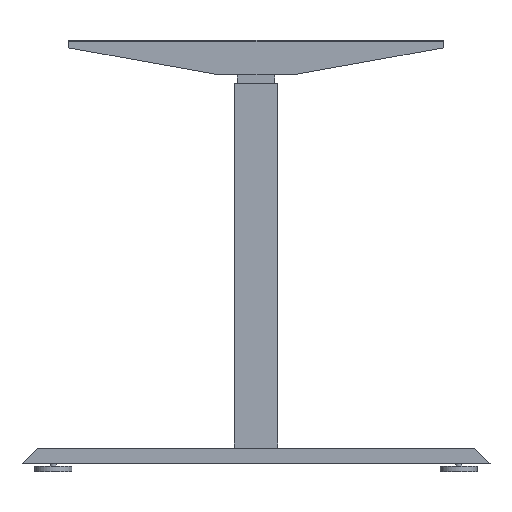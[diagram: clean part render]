
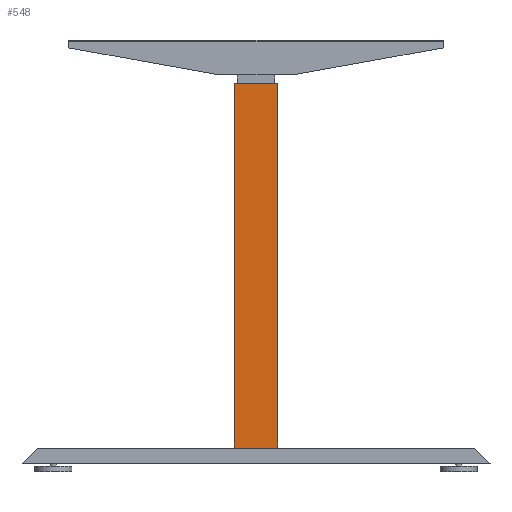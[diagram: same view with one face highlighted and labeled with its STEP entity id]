
A CAD part, left-side view. The second image highlights one B-rep face of the part: STEP entity #548.
In plain terms, the highlighted planar face has unit normal (-1, 0, 0).
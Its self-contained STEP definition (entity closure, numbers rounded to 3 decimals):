
#548 = ADVANCED_FACE( '', ( #1144 ), #1145, .F. );
#1144 = FACE_OUTER_BOUND( '', #1758, .T. );
#1145 = PLANE( '', #1759 );
#1758 = EDGE_LOOP( '', ( #2843, #2844, #2845, #2846 ) );
#1759 = AXIS2_PLACEMENT_3D( '', #2847, #2848, #2849 );
#2843 = ORIENTED_EDGE( '', *, *, #3547, .F. );
#2844 = ORIENTED_EDGE( '', *, *, #3523, .F. );
#2845 = ORIENTED_EDGE( '', *, *, #3237, .F. );
#2846 = ORIENTED_EDGE( '', *, *, #3462, .F. );
#2847 = CARTESIAN_POINT( '', ( -35., 0., 0. ) );
#2848 = DIRECTION( '', ( 1., 0., 0. ) );
#2849 = DIRECTION( '', ( 0., 0., -1. ) );
#3237 = EDGE_CURVE( '', #3770, #3771, #3772, .T. );
#3462 = EDGE_CURVE( '', #4125, #3770, #4126, .T. );
#3523 = EDGE_CURVE( '', #3771, #4208, #4209, .T. );
#3547 = EDGE_CURVE( '', #4208, #4125, #4239, .T. );
#3770 = VERTEX_POINT( '', #4522 );
#3771 = VERTEX_POINT( '', #4523 );
#3772 = LINE( '', #4524, #4525 );
#4125 = VERTEX_POINT( '', #4983 );
#4126 = LINE( '', #4984, #4985 );
#4208 = VERTEX_POINT( '', #5086 );
#4209 = LINE( '', #5087, #5088 );
#4239 = LINE( '', #5126, #5127 );
#4522 = CARTESIAN_POINT( '', ( -35., 35., 0. ) );
#4523 = CARTESIAN_POINT( '', ( -35., 35., 584. ) );
#4524 = CARTESIAN_POINT( '', ( -35., 35., 0. ) );
#4525 = VECTOR( '', #5321, 1000. );
#4983 = CARTESIAN_POINT( '', ( -35., -35., 0. ) );
#4984 = CARTESIAN_POINT( '', ( -35., -35., 0. ) );
#4985 = VECTOR( '', #5607, 1000. );
#5086 = CARTESIAN_POINT( '', ( -35., -35., 584. ) );
#5087 = CARTESIAN_POINT( '', ( -35., 35., 584. ) );
#5088 = VECTOR( '', #5675, 1000. );
#5126 = CARTESIAN_POINT( '', ( -35., -35., 584. ) );
#5127 = VECTOR( '', #5693, 1000. );
#5321 = DIRECTION( '', ( 0., 0., 1. ) );
#5607 = DIRECTION( '', ( 0., 1., 0. ) );
#5675 = DIRECTION( '', ( 0., -1., 0. ) );
#5693 = DIRECTION( '', ( 0., 0., -1. ) );
